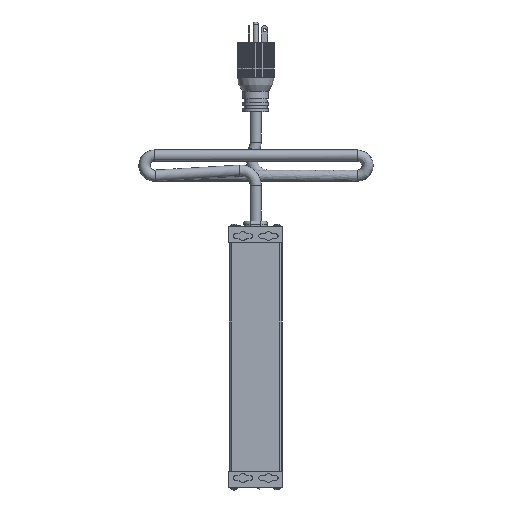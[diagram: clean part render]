
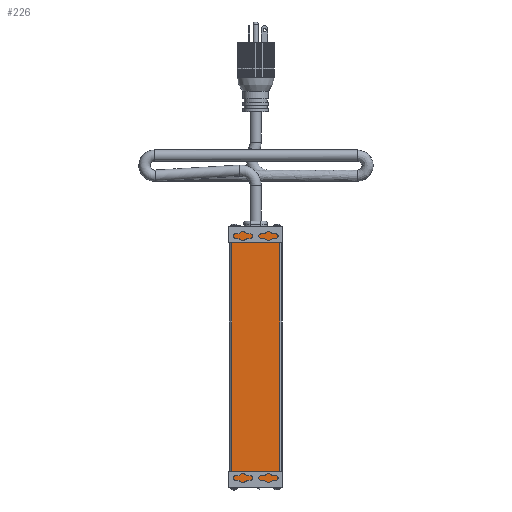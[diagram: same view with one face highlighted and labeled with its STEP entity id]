
A CAD part, front view. The second image highlights one B-rep face of the part: STEP entity #226.
In plain terms, the highlighted planar face has unit normal (0, -1, 0).
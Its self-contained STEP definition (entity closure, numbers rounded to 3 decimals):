
#187=CARTESIAN_POINT('',(0.0,0.0,0.0));
#188=DIRECTION('',(0.0,-1.0,0.0));
#189=DIRECTION('',(0.0,0.0,-1.0));
#190=AXIS2_PLACEMENT_3D('',#187,#188,#189);
#191=PLANE('',#190);
#192=CARTESIAN_POINT('',(23.8,0.,249.936));
#193=VERTEX_POINT('',#192);
#194=CARTESIAN_POINT('',(-23.8,0.,249.936));
#195=VERTEX_POINT('',#194);
#196=CARTESIAN_POINT('',(23.8,0.,249.936));
#197=DIRECTION('',(-1.0,0.0,0.0));
#198=VECTOR('',#197,47.6);
#199=LINE('',#196,#198);
#200=EDGE_CURVE('',#193,#195,#199,.T.);
#201=ORIENTED_EDGE('',*,*,#200,.T.);
#202=CARTESIAN_POINT('',(-23.8,0.,0.0));
#203=VERTEX_POINT('',#202);
#204=CARTESIAN_POINT('',(-23.8,0.,0.0));
#205=DIRECTION('',(0.0,0.0,1.0));
#206=VECTOR('',#205,249.936);
#207=LINE('',#204,#206);
#208=EDGE_CURVE('',#203,#195,#207,.T.);
#209=ORIENTED_EDGE('',*,*,#208,.F.);
#210=CARTESIAN_POINT('',(23.8,0.,0.0));
#211=VERTEX_POINT('',#210);
#212=CARTESIAN_POINT('',(-23.8,0.,0.0));
#213=DIRECTION('',(1.0,0.0,0.0));
#214=VECTOR('',#213,47.6);
#215=LINE('',#212,#214);
#216=EDGE_CURVE('',#203,#211,#215,.T.);
#217=ORIENTED_EDGE('',*,*,#216,.T.);
#218=CARTESIAN_POINT('',(23.8,0.,0.0));
#219=DIRECTION('',(0.0,0.0,1.0));
#220=VECTOR('',#219,249.936);
#221=LINE('',#218,#220);
#222=EDGE_CURVE('',#211,#193,#221,.T.);
#223=ORIENTED_EDGE('',*,*,#222,.T.);
#224=EDGE_LOOP('',(#201,#209,#217,#223));
#225=FACE_OUTER_BOUND('',#224,.T.);
#226=ADVANCED_FACE('',(#225),#191,.T.);
